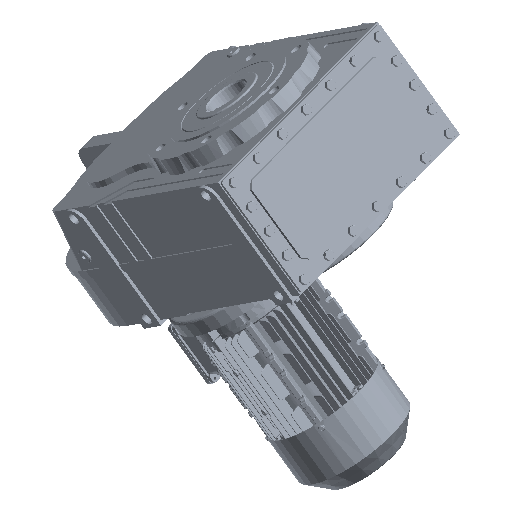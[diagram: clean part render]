
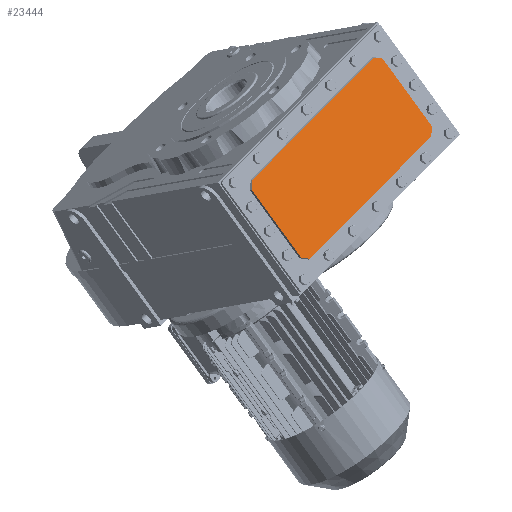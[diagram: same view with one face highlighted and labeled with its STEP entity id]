
A CAD part, isometric view. The second image highlights one B-rep face of the part: STEP entity #23444.
In plain terms, the highlighted planar face has unit normal (-0.056, -0.827, 0.56) as drawn and (0, -1, 0) by its records, which use the part's own axes.
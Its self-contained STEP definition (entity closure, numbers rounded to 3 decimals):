
#5547 = EDGE_LOOP ( 'NONE', ( #142895, #142953, #142884, #142947, #142873, #81390, #142941, #142847 ) ) ;
#14366 = FACE_OUTER_BOUND ( 'NONE', #5547, .T. ) ;
#23444 = ADVANCED_FACE ( 'NONE', ( #14366 ), #40666, .T. ) ;
#40666 = PLANE ( 'NONE',  #66969 ) ;
#40667 = DIRECTION ( 'NONE',  ( 0., -1., 0. ) ) ;
#40668 = DIRECTION ( 'NONE',  ( 0., 0., -1. ) ) ;
#40674 = CARTESIAN_POINT ( 'NONE',  ( 0., -145., 0. ) ) ;
#66877 = EDGE_CURVE ( 'NONE', #130173, #130194, #183595, .T. ) ;
#66919 = EDGE_CURVE ( 'NONE', #130175, #130173, #183585, .T. ) ;
#66944 = EDGE_CURVE ( 'NONE', #130208, #130155, #183552, .T. ) ;
#66969 = AXIS2_PLACEMENT_3D ( 'NONE', #40674, #40667, #40668 ) ;
#66972 = EDGE_CURVE ( 'NONE', #130150, #130175, #183563, .T. ) ;
#66987 = EDGE_CURVE ( 'NONE', #130186, #130208, #183686, .T. ) ;
#66998 = EDGE_CURVE ( 'NONE', #130158, #130150, #183654, .T. ) ;
#67006 = EDGE_CURVE ( 'NONE', #130194, #130186, #183677, .T. ) ;
#67080 = EDGE_CURVE ( 'NONE', #130155, #130158, #183788, .T. ) ;
#81390 = ORIENTED_EDGE ( 'NONE', *, *, #67006, .F. ) ;
#121209 = CARTESIAN_POINT ( 'NONE',  ( -135.196, -145., 152.667 ) ) ;
#124453 = CARTESIAN_POINT ( 'NONE',  ( 125.667, -145., 31.804 ) ) ;
#124483 = CARTESIAN_POINT ( 'NONE',  ( -135.196, -145., 41.333 ) ) ;
#124521 = CARTESIAN_POINT ( 'NONE',  ( -125.667, -145., 162.196 ) ) ;
#124561 = CARTESIAN_POINT ( 'NONE',  ( 125.667, -145., 162.196 ) ) ;
#124587 = CARTESIAN_POINT ( 'NONE',  ( 135.196, -145., 41.333 ) ) ;
#124605 = CARTESIAN_POINT ( 'NONE',  ( 135.196, -145., 152.667 ) ) ;
#124657 = CARTESIAN_POINT ( 'NONE',  ( -125.667, -145., 31.804 ) ) ;
#127079 = DIRECTION ( 'NONE',  ( 0.707, 0., -0.707 ) ) ;
#127090 = CARTESIAN_POINT ( 'NONE',  ( -135.196, -145., 153. ) ) ;
#127145 = DIRECTION ( 'NONE',  ( 0., 0., 1. ) ) ;
#127154 = CARTESIAN_POINT ( 'NONE',  ( 125.432, -145., 162.432 ) ) ;
#127244 = CARTESIAN_POINT ( 'NONE',  ( -135.432, -145., 41.568 ) ) ;
#127266 = DIRECTION ( 'NONE',  ( -0.707, 0., 0.707 ) ) ;
#129192 = CARTESIAN_POINT ( 'NONE',  ( -126., -145., 31.804 ) ) ;
#129285 = DIRECTION ( 'NONE',  ( -1., 0., 0. ) ) ;
#129531 = DIRECTION ( 'NONE',  ( -0.707, 0., -0.707 ) ) ;
#129543 = CARTESIAN_POINT ( 'NONE',  ( 135.432, -145., 41.568 ) ) ;
#129700 = DIRECTION ( 'NONE',  ( 0.707, 0., 0.707 ) ) ;
#129743 = CARTESIAN_POINT ( 'NONE',  ( -125.432, -145., 162.432 ) ) ;
#129793 = CARTESIAN_POINT ( 'NONE',  ( 135.196, -145., 153. ) ) ;
#129840 = DIRECTION ( 'NONE',  ( 0., 0., -1. ) ) ;
#130150 = VERTEX_POINT ( 'NONE', #124605 ) ;
#130155 = VERTEX_POINT ( 'NONE', #124521 ) ;
#130158 = VERTEX_POINT ( 'NONE', #124561 ) ;
#130173 = VERTEX_POINT ( 'NONE', #124453 ) ;
#130175 = VERTEX_POINT ( 'NONE', #124587 ) ;
#130186 = VERTEX_POINT ( 'NONE', #124483 ) ;
#130194 = VERTEX_POINT ( 'NONE', #124657 ) ;
#130208 = VERTEX_POINT ( 'NONE', #121209 ) ;
#132586 = CARTESIAN_POINT ( 'NONE',  ( -126., -145., 162.196 ) ) ;
#132611 = DIRECTION ( 'NONE',  ( 1., 0., 0. ) ) ;
#142847 = ORIENTED_EDGE ( 'NONE', *, *, #66919, .F. ) ;
#142873 = ORIENTED_EDGE ( 'NONE', *, *, #66987, .F. ) ;
#142884 = ORIENTED_EDGE ( 'NONE', *, *, #67080, .F. ) ;
#142895 = ORIENTED_EDGE ( 'NONE', *, *, #66972, .F. ) ;
#142941 = ORIENTED_EDGE ( 'NONE', *, *, #66877, .F. ) ;
#142947 = ORIENTED_EDGE ( 'NONE', *, *, #66944, .F. ) ;
#142953 = ORIENTED_EDGE ( 'NONE', *, *, #66998, .F. ) ;
#183552 = LINE ( 'NONE', #129743, #183629 ) ;
#183563 = LINE ( 'NONE', #129793, #183568 ) ;
#183565 = VECTOR ( 'NONE', #129531, 1000. ) ;
#183568 = VECTOR ( 'NONE', #129840, 1000. ) ;
#183585 = LINE ( 'NONE', #129543, #183565 ) ;
#183590 = VECTOR ( 'NONE', #129285, 1000. ) ;
#183595 = LINE ( 'NONE', #129192, #183590 ) ;
#183629 = VECTOR ( 'NONE', #129700, 1000. ) ;
#183654 = LINE ( 'NONE', #127154, #183748 ) ;
#183655 = VECTOR ( 'NONE', #127266, 1000. ) ;
#183677 = LINE ( 'NONE', #127244, #183655 ) ;
#183682 = VECTOR ( 'NONE', #127145, 1000. ) ;
#183686 = LINE ( 'NONE', #127090, #183682 ) ;
#183748 = VECTOR ( 'NONE', #127079, 1000. ) ;
#183773 = VECTOR ( 'NONE', #132611, 1000. ) ;
#183788 = LINE ( 'NONE', #132586, #183773 ) ;
